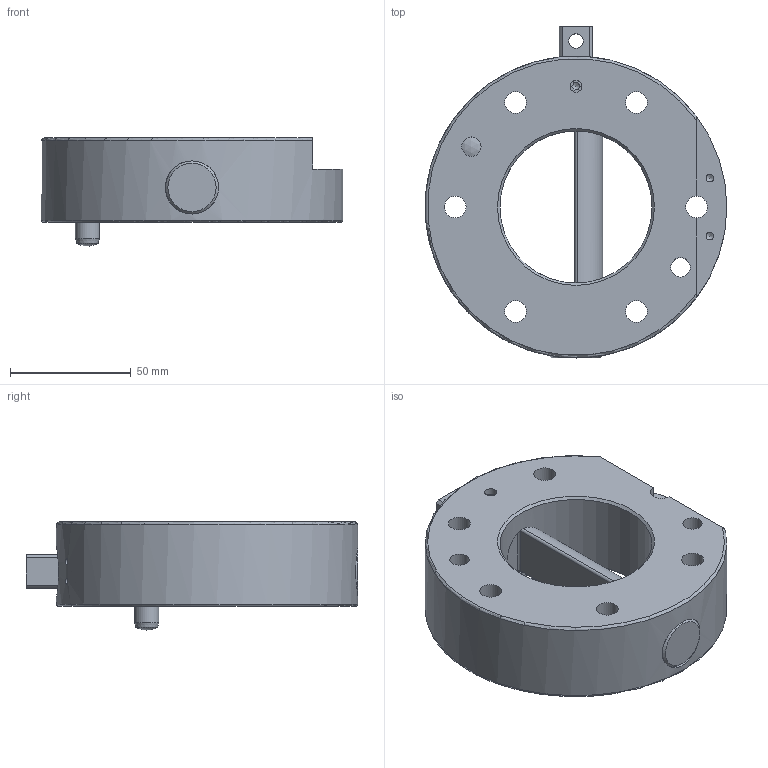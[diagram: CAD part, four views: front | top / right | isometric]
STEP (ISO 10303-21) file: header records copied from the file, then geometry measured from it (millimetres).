
FILE_DESCRIPTION(/* description */ (''),/* implementation_level */ '2;1');
FILE_NAME(/* name */ '\\dc01\daten\CAD\Standard\NEUE DATEN 2016\Daten\2 SWS\4 3-D CAD\125\G-SWS125-2OE.stp',/* time_stamp */ '2017-01-20T09:19:18+01:00',/* author */ ('ysplieth'),/* organization */ (''),/* preprocessor_version */ 'ST-DEVELOPER v15.2',/* originating_system */ 'Autodesk Inventor 2014',/* authorisation */ '');
FILE_SCHEMA (('AUTOMOTIVE_DESIGN { 1 0 10303 214 3 1 1 }'));
Length unit declared in the file: millimetre
Products named in the file (1): G-SWS125-2OE
Bounding box: 124.98 x 137.5 x 44.75 mm (x, y, z)
Volume: 303755 mm3; surface area: 51326.2 mm2
Topology: 1 solids, 1 shells, 100 faces, 243 edges, 155 vertices
Faces by surface type: cylinder 45, plane 33, cone 12, bspline 4, torus 4, sphere 2
Full cylindrical faces by diameter (mm): 2.459 x2, 3.242 x2, 4 x1, 4.917 x3, 6 x1, 8 x2, 9 x6, 10 x1, 15 x6, 22 x2, 63 x1, 125 x1
Entity records: 3159 total; most frequent: CARTESIAN_POINT 934, DIRECTION 432, ORIENTED_EDGE 366, AXIS2_PLACEMENT_3D 188, EDGE_CURVE 183, EDGE_LOOP 173, VERTEX_POINT 136, STYLED_ITEM 100
